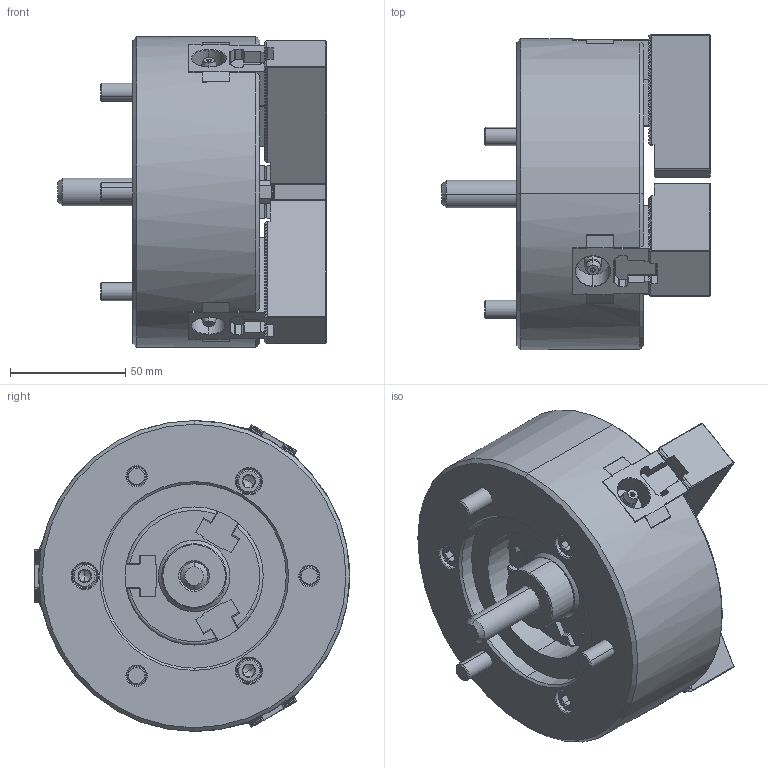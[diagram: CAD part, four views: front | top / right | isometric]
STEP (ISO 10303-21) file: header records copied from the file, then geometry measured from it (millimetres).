
FILE_DESCRIPTION (( 'STEP AP214' ), '1' );
FILE_NAME ('DT1_N-05_OUTSIDE_VIEW_HUL.STEP', '2026-03-13T02:00:41', ( '' ), ( '' ), 'SwSTEP 2.0', 'SolidWorks 2022', '' );
FILE_SCHEMA (( 'AUTOMOTIVE_DESIGN' ));
Length unit declared in the file: millimetre
Products named in the file (10): DT1_N-05_COVER^DT1_N-05; DT1_N-05_M8x22^DT1_N-05; DT1_N-05_OUTSIDE_VIEW_HUL; DT1_N-05_TNUT^DT1_N-05; DT1_N-05_BASE^DT1_N-05; DT1_N-05_DRAWSCREW^DT1_N-05; DT1_N-05_DN^DT1_N-05; DT1_N-05_SOFTJAW^DT1_N-05; DT1_N-05_M8x60^DT1_N-05; DT1_N-05_M4x8^DT1_N-05
Assembly tree (22 placements, depth 2):
  DT1_N-05_OUTSIDE_VIEW_HUL
    DT1_N-05_SOFTJAW^DT1_N-05  x3
    DT1_N-05_TNUT^DT1_N-05  x3
    DT1_N-05_COVER^DT1_N-05
    DT1_N-05_DRAWSCREW^DT1_N-05
    DT1_N-05_DN^DT1_N-05
    DT1_N-05_BASE^DT1_N-05
    DT1_N-05_M8x22^DT1_N-05  x6
    DT1_N-05_M8x60^DT1_N-05  x3
    DT1_N-05_M4x8^DT1_N-05  x3
Bounding box: 116.75 x 136.85 x 135 mm (x, y, z)
Volume: 824817.8 mm3; surface area: 143321.9 mm2
Topology: 22 solids, 25 shells, 3631 faces, 10118 edges, 6589 vertices
Faces by surface type: plane 2354, cylinder 826, cone 277, bspline 116, torus 52, sphere 6
Entity records: 89831 total; most frequent: CARTESIAN_POINT 24235, ORIENTED_EDGE 14468, DIRECTION 12214, EDGE_CURVE 7234, LINE 5420, VECTOR 5420, VERTEX_POINT 4716, AXIS2_PLACEMENT_3D 3397
